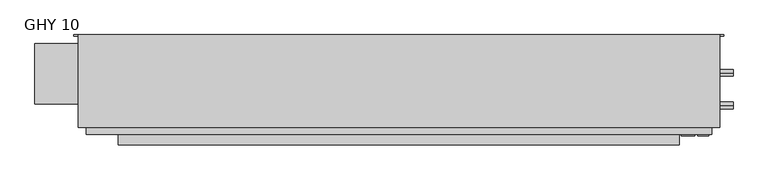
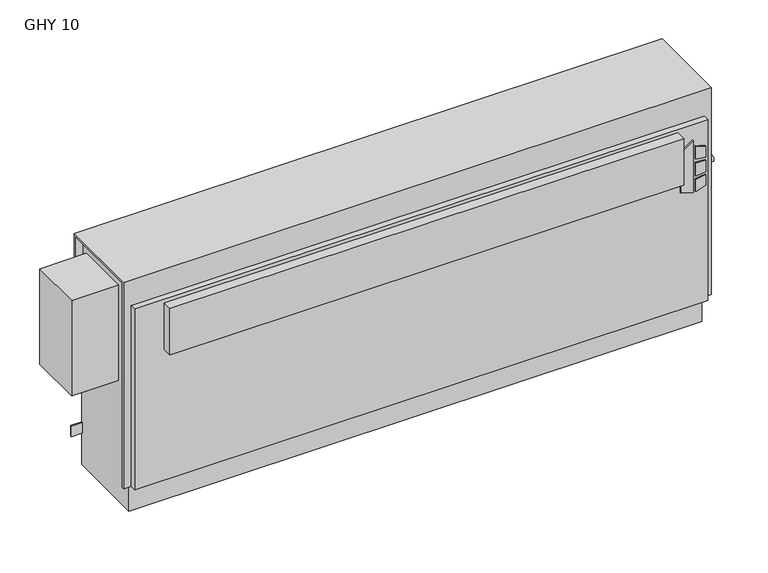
"""IFC4 building model written with IfcOpenShell, lengths in millimetres: proxy geometry, Vertical_Fan_Coil_Unit_-_GHY_-_IEC_-_2-Pipe_FS-FR_RH_2022 : GHY 10."""

import ifcopenshell
import ifcopenshell.guid

model = None  # the IFC model being written
_history = None  # IfcOwnerHistory: only IFC2X3 demands one
_inside = {}  # id of a spatial element -> (the spatial element, [elements in it])
_under = {}  # id of a project, library or spatial element -> (it, [spatial elements below it])
_declared = {}  # id of a project -> (the project, [libraries it declares])
_typed = {}  # id of a type object -> (the type object, [elements of that type])
_made_of = {}  # id of a material, layer set ... -> (it, [elements and type objects made of it])


def new_model(schema):
    """Start an empty IFC model of exactly this schema.

    Asked for "IFC4X3", IfcOpenShell would pick the latest addendum, in which some entities
    have other attributes; the version numbers below select the first issue.
    IFC2X3 requires an IfcOwnerHistory on every rooted entity: one is made here for all.
    """
    global model, _history
    if schema == "IFC4X3":
        model = ifcopenshell.file(schema_version=(4, 3, 0, 0))
    else:
        model = ifcopenshell.file(schema=schema)
    _inside.clear()
    _under.clear()
    _declared.clear()
    _typed.clear()
    _made_of.clear()
    _history = None
    if model.schema == "IFC2X3":
        org = make("IfcOrganization", Name="unknown")
        user = make(
            "IfcPersonAndOrganization",
            ThePerson=make("IfcPerson", FamilyName="unknown"),
            TheOrganization=org,
        )
        app = make(
            "IfcApplication",
            ApplicationDeveloper=org,
            Version="unknown",
            ApplicationFullName="unknown",
            ApplicationIdentifier="unknown",
        )
        _history = make(
            "IfcOwnerHistory",
            OwningUser=user,
            OwningApplication=app,
            ChangeAction="ADDED",
            CreationDate=0,
        )
    return model


def make(cls, **values):
    """One entity of the class cls with the attributes given. An attribute that is None is left unset."""
    return model.create_entity(
        cls, **{name: value for name, value in values.items() if value is not None}
    )


def rooted(cls, **values):
    """An entity with a GlobalId (a new one), such as an element, a storey or a relation."""
    return make(cls, GlobalId=ifcopenshell.guid.new(), OwnerHistory=_history, **values)


def si_unit(unit_type, name, prefix=None):
    """IfcSIUnit, for example si_unit("LENGTHUNIT", "METRE", prefix="MILLI")."""
    return make("IfcSIUnit", UnitType=unit_type, Prefix=prefix, Name=name)


def assignment(units):
    """IfcUnitAssignment: the units of a project."""
    return None if units is None else make("IfcUnitAssignment", Units=units)


def point(xyz):
    """IfcCartesianPoint."""
    return None if xyz is None else make("IfcCartesianPoint", Coordinates=xyz)


def direction(xyz):
    """IfcDirection."""
    return None if xyz is None else make("IfcDirection", DirectionRatios=xyz)


def frame(location, z_axis=None, x_axis=None):
    """IfcAxis2Placement3D, a coordinate frame: its origin and axes. An axis left out is left unset."""
    return make(
        "IfcAxis2Placement3D",
        Location=point(location),
        Axis=direction(z_axis),
        RefDirection=direction(x_axis),
    )


def frame_2d(location, x_axis=None):
    """IfcAxis2Placement2D, a coordinate frame in the plane: its origin and x axis."""
    return make(
        "IfcAxis2Placement2D", Location=point(location), RefDirection=direction(x_axis)
    )


def origin():
    """The frame at (0, 0, 0) with its axes left unset."""
    return frame((0.0, 0.0, 0.0))


def place(relative_to, where):
    """IfcLocalPlacement: puts the frame where relative to a parent placement (None: the world)."""
    return make(
        "IfcLocalPlacement", PlacementRelTo=relative_to, RelativePlacement=where
    )


def context(
    kind, dimensions, precision=None, world=None, true_north=None, identifier=None
):
    """IfcGeometricRepresentationContext, for example the 3D "Model" context."""
    return make(
        "IfcGeometricRepresentationContext",
        ContextIdentifier=identifier,
        ContextType=kind,
        CoordinateSpaceDimension=dimensions,
        Precision=precision,
        WorldCoordinateSystem=world,
        TrueNorth=true_north,
    )


def project(units=None, contexts=None):
    """IfcProject with its units and contexts."""
    return rooted(
        "IfcProject",
        Name="project",
        RepresentationContexts=contexts,
        UnitsInContext=assignment(units),
    )


def spatial(cls, under=None, at=None, **own):
    """A site, building, storey or space (cls), placed at a placement, below another one or the project."""
    s = rooted(cls, ObjectPlacement=at, **own)
    if under is not None:
        _under.setdefault(under.id(), (under, []))[1].append(s)
    return s


def polyline(points):
    """IfcPolyline through the points."""
    return make("IfcPolyline", Points=[point(p) for p in points])


def circle_curve(where, radius):
    """IfcCircle in the frame where."""
    return make("IfcCircle", Position=where, Radius=radius)


def trimmed(basis, trim1, trim2, sense, master):
    """IfcTrimmedCurve: the piece of a basis curve between two trims."""
    return make(
        "IfcTrimmedCurve",
        BasisCurve=basis,
        Trim1=trim1,
        Trim2=trim2,
        SenseAgreement=sense,
        MasterRepresentation=master,
    )


def segment(curve, same_sense, transition):
    """IfcCompositeCurveSegment."""
    return make(
        "IfcCompositeCurveSegment",
        Transition=transition,
        SameSense=same_sense,
        ParentCurve=curve,
    )


def composite_curve(segments, self_intersect=None):
    """IfcCompositeCurve: segments joined end to end."""
    return make("IfcCompositeCurve", Segments=segments, SelfIntersect=self_intersect)


def outline(outer, holes=None, kind="AREA"):
    """IfcArbitraryClosedProfileDef: a profile drawn as a closed curve; with holes, ...WithVoids."""
    if holes is None:
        return make("IfcArbitraryClosedProfileDef", ProfileType=kind, OuterCurve=outer)
    return make(
        "IfcArbitraryProfileDefWithVoids",
        ProfileType=kind,
        OuterCurve=outer,
        InnerCurves=holes,
    )


def extrude(swept, where, along, depth):
    """IfcExtrudedAreaSolid: the profile swept, set in the frame where, extruded along a direction by depth."""
    return make(
        "IfcExtrudedAreaSolid",
        SweptArea=swept,
        Position=where,
        ExtrudedDirection=direction(along),
        Depth=depth,
    )


def shape(context_of_items, identifier, shape_type, items):
    """IfcShapeRepresentation: the items that make up one representation, for example the "Body"."""
    return make(
        "IfcShapeRepresentation",
        ContextOfItems=context_of_items,
        RepresentationIdentifier=identifier,
        RepresentationType=shape_type,
        Items=items,
    )


def source(mapping_origin, context_of_items, identifier, shape_type, items):
    """IfcRepresentationMap: a shape defined once, which mapped items show again and again."""
    return make(
        "IfcRepresentationMap",
        MappingOrigin=mapping_origin,
        MappedRepresentation=shape(context_of_items, identifier, shape_type, items),
    )


def transform(
    local_origin,
    x_axis=None,
    y_axis=None,
    z_axis=None,
    scale=None,
    scale2=None,
    scale3=None,
    uniform=True,
):
    """IfcCartesianTransformationOperator3D, or its non-uniform kind. x_axis, y_axis, z_axis: its Axis1, 2, 3."""
    if uniform:
        return make(
            "IfcCartesianTransformationOperator3D",
            Axis1=direction(x_axis),
            Axis2=direction(y_axis),
            LocalOrigin=point(local_origin),
            Scale=scale,
            Axis3=direction(z_axis),
        )
    return make(
        "IfcCartesianTransformationOperator3DnonUniform",
        Axis1=direction(x_axis),
        Axis2=direction(y_axis),
        LocalOrigin=point(local_origin),
        Scale=scale,
        Axis3=direction(z_axis),
        Scale2=scale2,
        Scale3=scale3,
    )


def mapped(mapping_source, mapping_target):
    """IfcMappedItem: shows the shape of a source again, moved by a transform."""
    return make(
        "IfcMappedItem", MappingSource=mapping_source, MappingTarget=mapping_target
    )


def made_of(thing, what):
    """Note that an element or type object is made of a material, layer set ...; save() writes the relation."""
    if what is not None:
        _made_of.setdefault(what.id(), (what, []))[1].append(thing)
    return thing


def element(
    cls,
    number,
    at=None,
    inside=None,
    cuts=None,
    type_object=None,
    material=None,
    context=None,
    identifier="Body",
    shape_type=None,
    held_by="IfcProductDefinitionShape",
    body=None,
    shapes=None,
    **own,
):
    """One element of the class cls, such as IfcWall. Its Tag is "e" and its number.

    at: its placement. inside: the storey or other place that contains it. cuts: it is an
    opening in that element (IfcRelVoidsElement). A single representation is given by context,
    identifier, shape_type and body (its items); several are given by shapes. held_by: the class
    of the entity that holds the representations. save() writes the other relations.
    """
    e = rooted(cls, Tag="e%d" % number, ObjectPlacement=at, **own)
    if body is not None:
        shapes = [shape(context, identifier, shape_type, body)]
    if shapes is not None:
        e.Representation = make(held_by, Representations=shapes)
    if inside is not None:
        _inside.setdefault(inside.id(), (inside, []))[1].append(e)
    if cuts is not None:
        rooted(
            "IfcRelVoidsElement", RelatingBuildingElement=cuts, RelatedOpeningElement=e
        )
    if type_object is not None:
        _typed.setdefault(type_object.id(), (type_object, []))[1].append(e)
    return made_of(e, material)


def aggregate(whole, parts):
    """IfcRelAggregates: a whole, such as a stair, and the parts it consists of."""
    return rooted("IfcRelAggregates", RelatingObject=whole, RelatedObjects=parts)


def save(model, path):
    """Write the relations noted so far, then the file.

    IfcRelAggregates (storeys below a building ...), IfcRelContainedInSpatialStructure (elements
    in a storey), IfcRelDefinesByType, IfcRelAssociatesMaterial and IfcRelDeclares: one each for
    every whole, place, type object, material and project.
    """
    for whole, parts in _under.values():
        aggregate(whole, parts)
    for where, things in _inside.values():
        rooted(
            "IfcRelContainedInSpatialStructure",
            RelatedElements=things,
            RelatingStructure=where,
        )
    for kind, things in _typed.values():
        rooted("IfcRelDefinesByType", RelatedObjects=things, RelatingType=kind)
    for what, things in _made_of.values():
        rooted("IfcRelAssociatesMaterial", RelatedObjects=things, RelatingMaterial=what)
    for by, libraries in _declared.values():
        rooted("IfcRelDeclares", RelatingContext=by, RelatedDefinitions=libraries)
    model.write(path)


def plane_surface(at):
    """IfcPlane: the flat surface through the origin of the frame at, square to its z axis."""
    return make("IfcPlane", Position=at)


def revolved_surface(curve, axis_point, axis_direction):
    """IfcSurfaceOfRevolution: the curve turned about the line through axis_point along axis_direction."""
    return make(
        "IfcSurfaceOfRevolution",
        SweptCurve=make("IfcArbitraryOpenProfileDef", ProfileType="CURVE", Curve=curve),
        AxisPosition=make("IfcAxis1Placement", Location=point(axis_point), Axis=direction(axis_direction)),
    )


def advanced_brep(points, edges, surfaces, faces):
    """IfcAdvancedBrep: a solid bounded by faces that lie on surfaces and meet in shared edges.

    An edge is (start, end): straight between two places in points (the first is 0);
    or (start, end, curve); or (start, end, curve, False) where it runs against its curve.
    A face is (place in surfaces, loops), or (place, loops, False) where it looks against
    its surface's normal. A loop lists edges by number (the first is 1), with a minus sign
    where the edge is run from its end to its start. The first loop is the outer one.
    """
    corners = [point(p) for p in points]
    vertices = [make("IfcVertexPoint", VertexGeometry=c) for c in corners]
    made = []
    for start, end, *more in edges:
        made.append(
            make(
                "IfcEdgeCurve",
                EdgeStart=vertices[start],
                EdgeEnd=vertices[end],
                EdgeGeometry=more[0] if more else make("IfcPolyline", Points=[corners[start], corners[end]]),
                SameSense=more[1] if len(more) > 1 else True,
            )
        )
    hull = []
    for where, loops, *sense in faces:
        bounds = []
        for j, loop in enumerate(loops):
            ring = [make("IfcOrientedEdge", EdgeElement=made[abs(k) - 1], Orientation=k > 0) for k in loop]
            bounds.append(
                make(
                    "IfcFaceOuterBound" if j == 0 else "IfcFaceBound",
                    Bound=make("IfcEdgeLoop", EdgeList=ring),
                    Orientation=True,
                )
            )
        hull.append(make("IfcAdvancedFace", Bounds=bounds, FaceSurface=surfaces[where], SameSense=sense[0] if sense else True))
    return make("IfcAdvancedBrep", Outer=make("IfcClosedShell", CfsFaces=hull))


def ghy_10_a8db0796(model_context):
    return source(origin(), model_context, "Body", "SolidModel", [
        extrude(outline(polyline([(391.6086829, 817.6368862), (381.6606126, 849.8102728), (523.831537, 849.8102728), (500.8095309, 817.6368862), (391.6086829, 817.6368862)])), frame((0.0, 6.35, 0.0), z_axis=(0.0, 1.0, 0.0), x_axis=(0.0, 0.0, 1.0)), (0.0, 0.0, 1.0), 3.175),
        extrude(outline(polyline([(470.6079683, 856.5686058), (467.4055757, 882.65), (496.6344168, 882.65), (504.6988318, 856.5686058), (470.6079683, 856.5686058)])), frame((0.0, 6.35, 0.0), z_axis=(0.0, 1.0, 0.0), x_axis=(0.0, 0.0, 1.0)), (0.0, 0.0, 1.0), 3.175),
        extrude(outline(polyline([(418.7444414, 882.65), (415.0789404, 856.5686058), (381.6606126, 856.5686058), (390.2948498, 882.65), (418.7444414, 882.65)])), frame((0.0, 6.35, 0.0), z_axis=(0.0, 1.0, 0.0), x_axis=(0.0, 0.0, 1.0)), (0.0, 0.0, 1.0), 3.175),
        extrude(outline(polyline([(458.0596028, 882.65), (460.3414292, 856.5686058), (424.4038806, 856.5686058), (427.1451456, 882.65), (458.0596028, 882.65)])), frame((0.0, 6.35, 0.0), z_axis=(0.0, 1.0, 0.0), x_axis=(0.0, 0.0, 1.0)), (0.0, 0.0, 1.0), 3.175),
        extrude(outline(polyline([(812.8, -15.875), (-508.0, -15.875), (-508.0, 9.525), (812.8, 9.525), (812.8, -15.875)])), frame((0.0, 0.0, 428.625), z_axis=(0.0, 0.0, 1.0), x_axis=(1.0, 0.0, 0.0)), (0.0, 0.0, 1.0), 127.0),
        extrude(outline(composite_curve([segment(trimmed(circle_curve(frame_2d((77.597, 401.574)), 7.9375), [point((77.597, 393.6365))], [point((77.597, 409.5115))], False, "CARTESIAN"), True, "CONTINUOUS"), segment(trimmed(circle_curve(frame_2d((77.597, 401.574)), 7.9375), [point((77.597, 409.5115))], [point((77.597, 393.6365))], False, "CARTESIAN"), True, "CONTINUOUS")], self_intersect=False)), frame((889.0, 0.0, 0.0), z_axis=(1.0, 0.0, 0.0), x_axis=(0.0, 1.0, 0.0)), (0.0, 0.0, 1.0), 50.8),
        extrude(outline(composite_curve([segment(trimmed(circle_curve(frame_2d((154.559, 540.512)), 7.9375), [point((154.559, 532.5745))], [point((154.559, 548.4495))], False, "CARTESIAN"), True, "CONTINUOUS"), segment(trimmed(circle_curve(frame_2d((154.559, 540.512)), 7.9375), [point((154.559, 548.4495))], [point((154.559, 532.5745))], False, "CARTESIAN"), True, "CONTINUOUS")], self_intersect=False)), frame((889.0, 0.0, 0.0), z_axis=(1.0, 0.0, 0.0), x_axis=(0.0, 1.0, 0.0)), (0.0, 0.0, 1.0), 50.8),
        extrude(outline(polyline([(-704.85, 223.266), (-584.2, 223.266), (-584.2, 81.534), (-704.85, 81.534), (-704.85, 223.266)])), frame((0.0, 0.0, 327.025), z_axis=(0.0, 0.0, 1.0), x_axis=(1.0, 0.0, 0.0)), (0.0, 0.0, 1.0), 260.35),
        advanced_brep(
        [(908.05, 244.475, 635.0), (-603.25, 244.475, 635.0), (-603.25, 25.4, 635.0), (908.05, 25.4, 635.0), (-584.2, 244.475, 0.0), (889.0, 244.475, 0.0), (889.0, 34.925, 0.0), (-584.2, 34.925, 0.0), (908.05, 244.475, 558.8), (889.0, 244.475, 558.8), (889.0, 244.475, 414.3375), (917.575, 244.475, 414.3375), (917.575, 244.475, 385.7625), (889.0, 244.475, 385.7625), (889.0, 244.475, 287.3375), (917.575, 244.475, 287.3375), (917.575, 244.475, 258.7625), (889.0, 244.475, 258.7625), (889.0, 244.475, 141.2875), (917.575, 244.475, 141.2875), (917.575, 244.475, 112.7125), (889.0, 244.475, 112.7125), (-584.2, 244.475, 87.3125), (-612.775, 244.475, 87.3125), (-612.775, 244.475, 115.8875), (-584.2, 244.475, 115.8875), (-584.2, 244.475, 258.7625), (-612.775, 244.475, 258.7625), (-612.775, 244.475, 287.3375), (-584.2, 244.475, 287.3375), (-584.2, 244.475, 385.7625), (-612.775, 244.475, 385.7625), (-612.775, 244.475, 414.3375), (-584.2, 244.475, 414.3375), (-584.2, 244.475, 558.8), (-603.25, 244.475, 558.8), (907.2626, 244.475, 127.0), (896.1374, 244.475, 127.0), (907.2626, 244.475, 273.05), (896.1374, 244.475, 273.05), (-591.3374, 244.475, 273.05), (-602.4626, 244.475, 273.05), (907.2626, 244.475, 400.05), (896.1374, 244.475, 400.05), (-591.3374, 244.475, 400.05), (-602.4626, 244.475, 400.05), (-603.25, 238.125, 558.8), (-603.25, 238.125, 628.65), (-603.25, 31.75, 628.65), (-603.25, 31.75, 73.025), (-603.25, 25.4, 73.025), (889.0, 9.525, 565.15), (-584.2, 9.525, 565.15), (-584.2, 9.525, 73.025), (889.0, 9.525, 73.025), (908.05, 25.4, 73.025), (908.05, 31.75, 73.025), (908.05, 31.75, 628.65), (908.05, 238.125, 628.65), (908.05, 238.125, 558.8), (-584.2, 25.4, 73.025), (-584.2, 25.4, 565.15), (889.0, 25.4, 565.15), (889.0, 25.4, 73.025), (-584.2, 31.75, 73.025), (-584.2, 34.925, 73.025), (889.0, 34.925, 73.025), (889.0, 31.75, 73.025), (889.0, 241.3, 112.7125), (889.0, 241.3, 141.2875), (889.0, 241.3, 258.7625), (889.0, 241.3, 287.3375), (889.0, 241.3, 385.7625), (889.0, 241.3, 414.3375), (889.0, 238.125, 558.8), (889.0, 238.125, 628.65), (889.0, 31.75, 628.65), (-584.2, 31.75, 628.65), (-584.2, 238.125, 628.65), (-584.2, 238.125, 558.8), (-584.2, 241.3, 414.3375), (-584.2, 241.3, 385.7625), (-584.2, 241.3, 287.3375), (-584.2, 241.3, 258.7625), (-584.2, 241.3, 115.8875), (-584.2, 241.3, 87.3125), (917.575, 241.3, 112.7125), (917.575, 241.3, 141.2875), (896.1374, 241.3, 127.0), (907.2626, 241.3, 127.0), (917.575, 241.3, 258.7625), (917.575, 241.3, 287.3375), (896.1374, 241.3, 273.05), (907.2626, 241.3, 273.05), (917.575, 241.3, 385.7625), (917.575, 241.3, 414.3375), (896.1374, 241.3, 400.05), (907.2626, 241.3, 400.05), (-612.775, 241.3, 115.8875), (-612.775, 241.3, 87.3125), (-612.775, 241.3, 287.3375), (-612.775, 241.3, 258.7625), (-602.4626, 241.3, 273.05), (-591.3374, 241.3, 273.05), (-612.775, 241.3, 414.3375), (-612.775, 241.3, 385.7625), (-602.4626, 241.3, 400.05), (-591.3374, 241.3, 400.05)],
        [
            (0, 1),
            (1, 2),
            (2, 3),
            (3, 0),
            (4, 5),
            (5, 6),
            (6, 7),
            (7, 4),
            (0, 8),
            (8, 9),
            (9, 10),
            (10, 11),
            (11, 12),
            (12, 13),
            (13, 14),
            (14, 15),
            (15, 16),
            (16, 17),
            (17, 18),
            (18, 19),
            (19, 20),
            (20, 21),
            (21, 5),
            (4, 22),
            (22, 23),
            (23, 24),
            (24, 25),
            (25, 26),
            (26, 27),
            (27, 28),
            (28, 29),
            (29, 30),
            (30, 31),
            (31, 32),
            (32, 33),
            (33, 34),
            (34, 35),
            (35, 1),
            (36, 37, circle_curve(frame((901.7, 244.475, 127.0), z_axis=(0.0, -1.0, 0.0), x_axis=(-1.0, 0.0, 0.0)), 5.5626)),
            (37, 36, circle_curve(frame((901.7, 244.475, 127.0), z_axis=(0.0, -1.0, 0.0), x_axis=(-1.0, 0.0, 0.0)), 5.5626)),
            (38, 39, circle_curve(frame((901.7, 244.475, 273.05), z_axis=(0.0, -1.0, 0.0), x_axis=(-1.0, 0.0, 0.0)), 5.5626)),
            (39, 38, circle_curve(frame((901.7, 244.475, 273.05), z_axis=(0.0, -1.0, 0.0), x_axis=(-1.0, 0.0, 0.0)), 5.5626)),
            (40, 41, circle_curve(frame((-596.9, 244.475, 273.05), z_axis=(0.0, -1.0, 0.0), x_axis=(-1.0, 0.0, 0.0)), 5.5626)),
            (41, 40, circle_curve(frame((-596.9, 244.475, 273.05), z_axis=(0.0, -1.0, 0.0), x_axis=(-1.0, 0.0, 0.0)), 5.5626)),
            (42, 43, circle_curve(frame((901.7, 244.475, 400.05), z_axis=(0.0, -1.0, 0.0), x_axis=(-1.0, 0.0, 0.0)), 5.5626)),
            (43, 42, circle_curve(frame((901.7, 244.475, 400.05), z_axis=(0.0, -1.0, 0.0), x_axis=(-1.0, 0.0, 0.0)), 5.5626)),
            (44, 45, circle_curve(frame((-596.9, 244.475, 400.05), z_axis=(0.0, -1.0, 0.0), x_axis=(-1.0, 0.0, 0.0)), 5.5626)),
            (45, 44, circle_curve(frame((-596.9, 244.475, 400.05), z_axis=(0.0, -1.0, 0.0), x_axis=(-1.0, 0.0, 0.0)), 5.5626)),
            (35, 46),
            (46, 47),
            (47, 48),
            (48, 49),
            (49, 50),
            (50, 2),
            (51, 52),
            (52, 53),
            (53, 54),
            (54, 51),
            (3, 55),
            (55, 56),
            (56, 57),
            (57, 58),
            (58, 59),
            (59, 8),
            (50, 60),
            (60, 61),
            (61, 62),
            (62, 63),
            (63, 55),
            (51, 62),
            (61, 52),
            (53, 60),
            (49, 64),
            (64, 65),
            (65, 66),
            (66, 67),
            (67, 56),
            (63, 54),
            (6, 66),
            (65, 7),
            (21, 68),
            (68, 69),
            (69, 18),
            (17, 70),
            (70, 71),
            (71, 14),
            (13, 72),
            (72, 73),
            (73, 10),
            (9, 74),
            (74, 75),
            (75, 76),
            (76, 67),
            (64, 77),
            (77, 78),
            (78, 79),
            (79, 34),
            (33, 80),
            (80, 81),
            (81, 30),
            (29, 82),
            (82, 83),
            (83, 26),
            (25, 84),
            (84, 85),
            (85, 22),
            (74, 59),
            (58, 75),
            (76, 57),
            (48, 77),
            (79, 46),
            (78, 47),
            (68, 86),
            (86, 87),
            (87, 69),
            (88, 89, circle_curve(frame((901.7, 241.3, 127.0), z_axis=(0.0, 1.0, 0.0), x_axis=(-1.0, 0.0, 0.0)), 5.5626)),
            (89, 88, circle_curve(frame((901.7, 241.3, 127.0), z_axis=(0.0, 1.0, 0.0), x_axis=(-1.0, 0.0, 0.0)), 5.5626)),
            (90, 91),
            (91, 71),
            (70, 90),
            (92, 93, circle_curve(frame((901.7, 241.3, 273.05), z_axis=(0.0, 1.0, 0.0), x_axis=(-1.0, 0.0, 0.0)), 5.5626)),
            (93, 92, circle_curve(frame((901.7, 241.3, 273.05), z_axis=(0.0, 1.0, 0.0), x_axis=(-1.0, 0.0, 0.0)), 5.5626)),
            (94, 95),
            (95, 73),
            (72, 94),
            (96, 97, circle_curve(frame((901.7, 241.3, 400.05), z_axis=(0.0, 1.0, 0.0), x_axis=(-1.0, 0.0, 0.0)), 5.5626)),
            (97, 96, circle_curve(frame((901.7, 241.3, 400.05), z_axis=(0.0, 1.0, 0.0), x_axis=(-1.0, 0.0, 0.0)), 5.5626)),
            (98, 99),
            (99, 85),
            (84, 98),
            (82, 100),
            (100, 101),
            (101, 83),
            (102, 103, circle_curve(frame((-596.9, 241.3, 273.05), z_axis=(0.0, 1.0, 0.0), x_axis=(-1.0, 0.0, 0.0)), 5.5626)),
            (103, 102, circle_curve(frame((-596.9, 241.3, 273.05), z_axis=(0.0, 1.0, 0.0), x_axis=(-1.0, 0.0, 0.0)), 5.5626)),
            (104, 105),
            (105, 81),
            (80, 104),
            (106, 107, circle_curve(frame((-596.9, 241.3, 400.05), z_axis=(0.0, 1.0, 0.0), x_axis=(-1.0, 0.0, 0.0)), 5.5626)),
            (107, 106, circle_curve(frame((-596.9, 241.3, 400.05), z_axis=(0.0, 1.0, 0.0), x_axis=(-1.0, 0.0, 0.0)), 5.5626)),
            (87, 19),
            (86, 20),
            (16, 90),
            (91, 15),
            (12, 94),
            (95, 11),
            (24, 98),
            (99, 23),
            (101, 27),
            (100, 28),
            (32, 104),
            (105, 31),
            (88, 37),
            (36, 89),
            (92, 39),
            (38, 93),
            (102, 41),
            (40, 103),
            (96, 43),
            (42, 97),
            (106, 45),
            (44, 107),
        ],
        [
            plane_surface(frame((-603.25, 244.475, 635.0), z_axis=(0.0, 0.0, 1.0), x_axis=(-1.0, 0.0, 0.0))),
            plane_surface(frame((-603.25, 244.475, 0.0), z_axis=(0.0, 0.0, -1.0), x_axis=(1.0, 0.0, 0.0))),
            plane_surface(frame((908.05, 244.475, 635.0), z_axis=(0.0, 1.0, 0.0), x_axis=(0.0, 0.0, -1.0))),
            plane_surface(frame((-603.25, 244.475, 635.0), z_axis=(-1.0, 0.0, 0.0), x_axis=(0.0, 0.0, -1.0))),
            plane_surface(frame((-603.25, 9.525, 635.0), z_axis=(0.0, -1.0, 0.0), x_axis=(0.0, 0.0, -1.0))),
            plane_surface(frame((908.05, 9.525, 635.0), z_axis=(1.0, 0.0, 0.0), x_axis=(0.0, 0.0, -1.0))),
            plane_surface(frame((-1060.45, 25.4, 635.0), z_axis=(0.0, -1.0, 0.0), x_axis=(1.0, 0.0, 0.0))),
            plane_surface(frame((-1060.45, 25.4, 565.15), z_axis=(0.0, 0.0, 1.0), x_axis=(1.0, 0.0, 0.0))),
            plane_surface(frame((-603.25, 9.525, 73.025), z_axis=(0.0, 0.0, -1.0), x_axis=(1.0, 0.0, 0.0))),
            plane_surface(frame((-603.25, 34.925, 73.025), z_axis=(0.0, -1.0, 0.0), x_axis=(1.0, 0.0, 0.0))),
            plane_surface(frame((889.0, 25.4, 73.025), z_axis=(1.0, 0.0, 0.0), x_axis=(0.0, -1.0, 0.0))),
            plane_surface(frame((-584.2, 25.4, 565.15), z_axis=(-1.0, 0.0, 0.0), x_axis=(0.0, -1.0, 0.0))),
            plane_surface(frame((889.0, 244.475, 0.0), z_axis=(1.0, 0.0, 0.0), x_axis=(0.0, -1.0, 0.0))),
            plane_surface(frame((-584.2, 244.475, 73.025), z_axis=(-1.0, 0.0, 0.0), x_axis=(0.0, -1.0, 0.0))),
            plane_surface(frame((889.0, 238.125, 628.65), z_axis=(0.0, -1.0, 0.0), x_axis=(1.0, 0.0, 0.0))),
            plane_surface(frame((889.0, 238.125, 558.8), z_axis=(0.0, 0.0, -1.0), x_axis=(1.0, 0.0, 0.0))),
            plane_surface(frame((889.0, 31.75, 73.025), z_axis=(0.0, 1.0, 0.0), x_axis=(1.0, 0.0, 0.0))),
            plane_surface(frame((889.0, 31.75, 628.65), z_axis=(0.0, 0.0, -1.0), x_axis=(1.0, 0.0, 0.0))),
            plane_surface(frame((-584.2, 31.75, 628.65), z_axis=(0.0, 1.0, 0.0), x_axis=(-1.0, 0.0, 0.0))),
            plane_surface(frame((-584.2, 244.475, 558.8), z_axis=(0.0, 0.0, -1.0), x_axis=(-1.0, 0.0, 0.0))),
            plane_surface(frame((-584.2, 238.125, 558.8), z_axis=(0.0, -1.0, 0.0), x_axis=(-1.0, 0.0, 0.0))),
            plane_surface(frame((-584.2, 238.125, 628.65), z_axis=(0.0, 0.0, -1.0), x_axis=(-1.0, 0.0, 0.0))),
            plane_surface(frame((917.575, 241.3, 141.2875), z_axis=(0.0, -1.0, 0.0), x_axis=(-1.0, 0.0, 0.0))),
            plane_surface(frame((889.0, 244.475, 141.2875), z_axis=(0.0, 0.0, 1.0), x_axis=(0.0, -1.0, 0.0))),
            plane_surface(frame((917.575, 244.475, 141.2875), z_axis=(1.0, 0.0, 0.0), x_axis=(0.0, -1.0, 0.0))),
            plane_surface(frame((917.575, 244.475, 112.7125), z_axis=(0.0, 0.0, -1.0), x_axis=(0.0, -1.0, 0.0))),
            plane_surface(frame((917.575, 244.475, 258.7625), z_axis=(0.0, 0.0, -1.0), x_axis=(0.0, -1.0, 0.0))),
            plane_surface(frame((889.0, 244.475, 287.3375), z_axis=(0.0, 0.0, 1.0), x_axis=(0.0, -1.0, 0.0))),
            plane_surface(frame((917.575, 244.475, 287.3375), z_axis=(1.0, 0.0, 0.0), x_axis=(0.0, -1.0, 0.0))),
            plane_surface(frame((917.575, 244.475, 385.7625), z_axis=(0.0, 0.0, -1.0), x_axis=(0.0, -1.0, 0.0))),
            plane_surface(frame((889.0, 244.475, 414.3375), z_axis=(0.0, 0.0, 1.0), x_axis=(0.0, -1.0, 0.0))),
            plane_surface(frame((917.575, 244.475, 414.3375), z_axis=(1.0, 0.0, 0.0), x_axis=(0.0, -1.0, 0.0))),
            plane_surface(frame((-612.775, 244.475, 115.8875), z_axis=(0.0, 0.0, 1.0), x_axis=(0.0, -1.0, 0.0))),
            plane_surface(frame((-584.2, 244.475, 87.3125), z_axis=(0.0, 0.0, -1.0), x_axis=(0.0, -1.0, 0.0))),
            plane_surface(frame((-612.775, 244.475, 87.3125), z_axis=(-1.0, 0.0, 0.0), x_axis=(0.0, -1.0, 0.0))),
            plane_surface(frame((-584.2, 244.475, 258.7625), z_axis=(0.0, 0.0, -1.0), x_axis=(0.0, -1.0, 0.0))),
            plane_surface(frame((-612.775, 244.475, 258.7625), z_axis=(-1.0, 0.0, 0.0), x_axis=(0.0, -1.0, 0.0))),
            plane_surface(frame((-612.775, 244.475, 287.3375), z_axis=(0.0, 0.0, 1.0), x_axis=(0.0, -1.0, 0.0))),
            plane_surface(frame((-612.775, 244.475, 414.3375), z_axis=(0.0, 0.0, 1.0), x_axis=(0.0, -1.0, 0.0))),
            plane_surface(frame((-584.2, 244.475, 385.7625), z_axis=(0.0, 0.0, -1.0), x_axis=(0.0, -1.0, 0.0))),
            plane_surface(frame((-612.775, 244.475, 385.7625), z_axis=(-1.0, 0.0, 0.0), x_axis=(0.0, -1.0, 0.0))),
            revolved_surface(polyline([(896.1374000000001, 241.3, 127.0), (896.1374000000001, 244.475, 127.0)]), (901.7, 244.475, 127.0), (0.0, -1.0, 0.0)),
            revolved_surface(polyline([(896.1374000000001, 241.3, 273.05), (896.1374000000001, 244.475, 273.05)]), (901.7, 244.475, 273.05), (0.0, -1.0, 0.0)),
            revolved_surface(polyline([(-602.4626, 241.3, 273.05), (-602.4626, 244.475, 273.05)]), (-596.9, 244.475, 273.05), (0.0, -1.0, 0.0)),
            revolved_surface(polyline([(896.1374000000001, 241.3, 400.05), (896.1374000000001, 244.475, 400.05)]), (901.7, 244.475, 400.05), (0.0, -1.0, 0.0)),
            revolved_surface(polyline([(-602.4626, 241.3, 400.05), (-602.4626, 244.475, 400.05)]), (-596.9, 244.475, 400.05), (0.0, -1.0, 0.0)),
        ],
        [
            (0, [[1, 2, 3, 4]]),
            (1, [[5, 6, 7, 8]]),
            (2, [[-1, 9, 10, 11, 12, 13, 14, 15, 16, 17, 18, 19, 20, 21, 22, 23, -5, 24, 25, 26, 27, 28, 29, 30, 31, 32, 33, 34, 35, 36, 37, 38], [39, 40], [41, 42], [43, 44], [45, 46], [47, 48]]),
            (3, [[-2, -38, 49, 50, 51, 52, 53, 54]]),
            (4, [[55, 56, 57, 58]]),
            (5, [[-4, 59, 60, 61, 62, 63, 64, -9]]),
            (6, [[-3, -54, 65, 66, 67, 68, 69, -59]]),
            (7, [[-55, 70, -67, 71]]),
            (8, [[-57, 72, -65, -53, 73, 74, 75, 76, 77, -60, -69, 78]]),
            (9, [[-7, 79, -75, 80]]),
            (10, [[-68, -70, -58, -78]]),
            (11, [[-66, -72, -56, -71]]),
            (12, [[-6, -23, 81, 82, 83, -19, 84, 85, 86, -15, 87, 88, 89, -11, 90, 91, 92, 93, -76, -79]]),
            (13, [[-8, -80, -74, 94, 95, 96, 97, -36, 98, 99, 100, -32, 101, 102, 103, -28, 104, 105, 106, -24]]),
            (14, [[-91, 107, -63, 108]]),
            (15, [[-90, -10, -64, -107]]),
            (16, [[-93, 109, -61, -77]]),
            (17, [[-92, -108, -62, -109]]),
            (18, [[-94, -73, -52, 110]]),
            (19, [[-97, 111, -49, -37]]),
            (20, [[-96, 112, -50, -111]]),
            (21, [[-95, -110, -51, -112]]),
            (22, [[113, 114, 115, -82], [116, 117]]),
            (22, [[118, 119, -85, 120], [121, 122]]),
            (22, [[123, 124, -88, 125], [126, 127]]),
            (22, [[128, 129, -105, 130]]),
            (22, [[131, 132, 133, -102], [134, 135]]),
            (22, [[136, 137, -99, 138], [139, 140]]),
            (23, [[-115, 141, -20, -83]]),
            (24, [[-114, 142, -21, -141]]),
            (25, [[-113, -81, -22, -142]]),
            (26, [[-120, -84, -18, 143]]),
            (27, [[-119, 144, -16, -86]]),
            (28, [[-118, -143, -17, -144]]),
            (29, [[-125, -87, -14, 145]]),
            (30, [[-124, 146, -12, -89]]),
            (31, [[-123, -145, -13, -146]]),
            (32, [[-130, -104, -27, 147]]),
            (33, [[-129, 148, -25, -106]]),
            (34, [[-128, -147, -26, -148]]),
            (35, [[-133, 149, -29, -103]]),
            (36, [[-132, 150, -30, -149]]),
            (37, [[-131, -101, -31, -150]]),
            (38, [[-138, -98, -35, 151]]),
            (39, [[-137, 152, -33, -100]]),
            (40, [[-136, -151, -34, -152]]),
            (41, [[153, -39, 154, -116]]),
            (41, [[-153, -117, -154, -40]]),
            (42, [[155, -41, 156, -121]]),
            (42, [[-155, -122, -156, -42]]),
            (43, [[157, -43, 158, -134]]),
            (43, [[-157, -135, -158, -44]]),
            (44, [[159, -45, 160, -126]]),
            (44, [[-159, -127, -160, -46]]),
            (45, [[161, -47, 162, -139]]),
            (45, [[-161, -140, -162, -48]]),
        ],
    ),
    ])


if __name__ == "__main__":
    model = new_model("IFC4")
    model_context = context("Model", 3, world=origin())
    ifc_project = project(units=[si_unit("LENGTHUNIT", "METRE", prefix="MILLI")], contexts=[model_context])
    site = spatial("IfcSite", under=ifc_project)
    building = spatial("IfcBuilding", under=site)
    placement = place(None, origin())
    ghy_10_shape = ghy_10_a8db0796(model_context)
    element("IfcBuildingElementProxy", 1, Name="Vertical_Fan_Coil_Unit_-_GHY_-_IEC_-_2-Pipe_FS-FR_RH_2022 : GHY 10", ObjectType="Vertical_Fan_Coil_Unit_-_GHY_-_IEC_-_2-Pipe_FS-FR_RH_2022 : GHY 10", at=placement, inside=building, context=model_context, shape_type="MappedRepresentation", body=[
        mapped(ghy_10_shape, transform((0.0, 0.0, 0.0), x_axis=(1.0, 0.0, 0.0), y_axis=(0.0, 1.0, 0.0), z_axis=(0.0, 0.0, 1.0))),
    ])
    save(model, "model.ifc")
